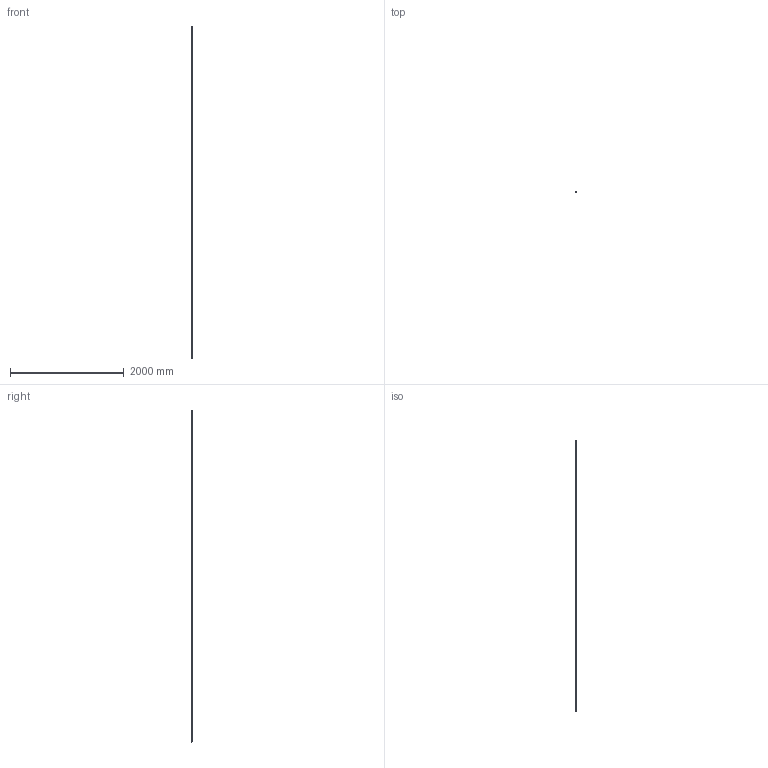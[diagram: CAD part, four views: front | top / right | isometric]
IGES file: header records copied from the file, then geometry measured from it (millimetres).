
Start section: 3D InterOp IGES (v. 2019 1.0.2), Spatial Corp. Copyright (c) 1999-2017.
Global section: file name: R1605.6_size20.igs; native system: Spatial Corp.; preprocessor: 3D InterOp GENERIC/IGES 3.0; author: Noname; organization: Noname; date: 20220629.163458; units: millimetre
Bounding box: 20.5 x 21.7 x 5827.11 mm (x, y, z)
Surface area: 768538.8 mm2 (no closed solid volume)
Topology: 0 solids, 0 shells, 1643 faces, 8888 edges, 8884 vertices
Faces by surface type: extrusion 1131, revolution 512
